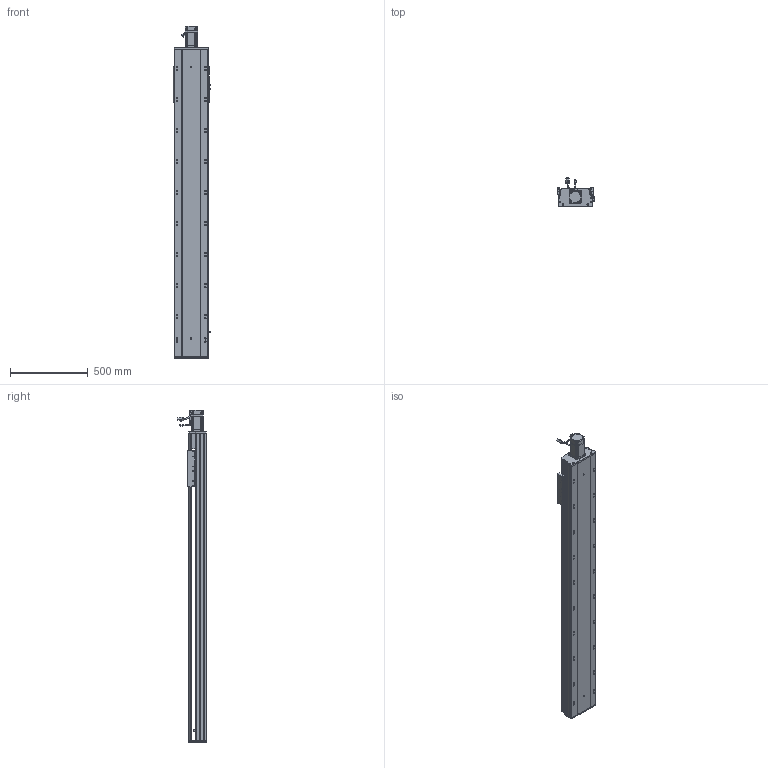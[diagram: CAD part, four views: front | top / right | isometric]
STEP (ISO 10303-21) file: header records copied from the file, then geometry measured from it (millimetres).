
FILE_DESCRIPTION (( 'STEP AP203' ), '1' );
FILE_NAME ('RY220-L2525-800-MK-邧嶺.SLDASM_1550.step', '2022-08-06T08:58:04', ( '' ), ( '' ), 'SwSTEP 2.0', 'SolidWorks 2016', '' );
FILE_SCHEMA (( 'CONFIG_CONTROL_DESIGN' ));
Length unit declared in the file: millimetre
Products named in the file (12): RY220半封闭25-32螺母铝滑块; 怢湛750W_ECMA-CX0807ES; RY220-L2525-800-MK-邧嶺.SLDASM_1550; 滅袉蝶18-12; RY220菁釱MK-800-邧嶺_1550; RY220ヶ裔啣; RY220-800-奻裔啣-MK_1550; RY220电机支撑座FK20（PCD90M6）; 滅袉蝶18-15; RY220綴裔啣; 覜茼ん672; RY220-俋离672覜茼んえ
Assembly tree (15 placements, depth 2):
  RY220-L2525-800-MK-邧嶺.SLDASM_1550
    RY220菁釱MK-800-邧嶺_1550
    RY220电机支撑座FK20（PCD90M6）
    怢湛750W_ECMA-CX0807ES
    滅袉蝶18-12  x2
    RY220ヶ裔啣
    RY220綴裔啣
    覜茼ん672  x3
    RY220半封闭25-32螺母铝滑块
    RY220-800-奻裔啣-MK_1550
    RY220-俋离672覜茼んえ
    滅袉蝶18-15  x2
Bounding box: 238.7 x 187.27 x 2140.3 mm (x, y, z)
Volume: 16108604.3 mm3; surface area: 4655876.4 mm2
Topology: 16 solids, 16 shells, 2348 faces, 6514 edges, 4092 vertices
Faces by surface type: cylinder 1082, plane 915, cone 289, bspline 36, sphere 16, torus 10
Entity records: 77288 total; most frequent: CARTESIAN_POINT 21845, ORIENTED_EDGE 11488, DIRECTION 10955, EDGE_CURVE 5744, AXIS2_PLACEMENT_3D 3885, VERTEX_POINT 3748, VECTOR 3185, LINE 3185
